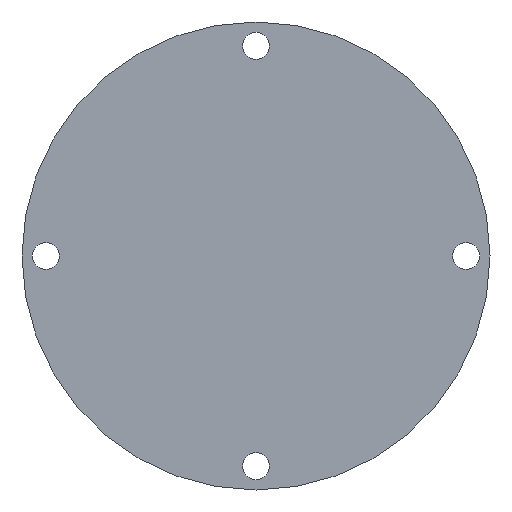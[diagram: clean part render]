
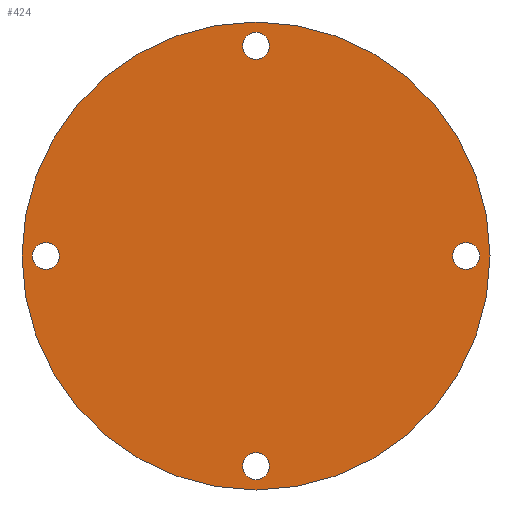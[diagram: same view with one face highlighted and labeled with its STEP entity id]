
A CAD part, front view. The second image highlights one B-rep face of the part: STEP entity #424.
In plain terms, the highlighted planar face has unit normal (0, -1, 0).
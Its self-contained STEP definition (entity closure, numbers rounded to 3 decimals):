
#2 = CARTESIAN_POINT ( 'NONE',  ( -40.4, 0., -2.591 ) ) ;
#7 = DIRECTION ( 'NONE',  ( 0., 1., 0. ) ) ;
#9 = DIRECTION ( 'NONE',  ( 0., 0., 1. ) ) ;
#24 = EDGE_CURVE ( 'NONE', #179, #41, #325, .T. ) ;
#31 = DIRECTION ( 'NONE',  ( 0., 1., 0. ) ) ;
#33 = AXIS2_PLACEMENT_3D ( 'NONE', #348, #7, #134 ) ;
#39 = DIRECTION ( 'NONE',  ( 0., 0., 1. ) ) ;
#41 = VERTEX_POINT ( 'NONE', #163 ) ;
#42 = DIRECTION ( 'NONE',  ( 0., 1., 0. ) ) ;
#52 = EDGE_CURVE ( 'NONE', #115, #168, #146, .T. ) ;
#57 = CIRCLE ( 'NONE', #169, 2.591 ) ;
#66 = DIRECTION ( 'NONE',  ( 0., 1., 0. ) ) ;
#67 = EDGE_CURVE ( 'NONE', #110, #410, #425, .T. ) ;
#72 = CARTESIAN_POINT ( 'NONE',  ( 0., 0., 0. ) ) ;
#73 = ORIENTED_EDGE ( 'NONE', *, *, #148, .T. ) ;
#78 = PLANE ( 'NONE',  #161 ) ;
#81 = CARTESIAN_POINT ( 'NONE',  ( 0., 0., 42.991 ) ) ;
#88 = CARTESIAN_POINT ( 'NONE',  ( 0., 0., 40.4 ) ) ;
#89 = VERTEX_POINT ( 'NONE', #131 ) ;
#103 = ORIENTED_EDGE ( 'NONE', *, *, #120, .F. ) ;
#107 = DIRECTION ( 'NONE',  ( 0., 1., 0. ) ) ;
#110 = VERTEX_POINT ( 'NONE', #234 ) ;
#115 = VERTEX_POINT ( 'NONE', #276 ) ;
#118 = AXIS2_PLACEMENT_3D ( 'NONE', #219, #262, #174 ) ;
#120 = EDGE_CURVE ( 'NONE', #41, #179, #400, .T. ) ;
#125 = VERTEX_POINT ( 'NONE', #2 ) ;
#126 = EDGE_LOOP ( 'NONE', ( #73, #383 ) ) ;
#131 = CARTESIAN_POINT ( 'NONE',  ( 40.4, 0., 2.591 ) ) ;
#134 = DIRECTION ( 'NONE',  ( 0., 0., 1. ) ) ;
#140 = CARTESIAN_POINT ( 'NONE',  ( 40.4, 0., -2.591 ) ) ;
#143 = AXIS2_PLACEMENT_3D ( 'NONE', #379, #279, #195 ) ;
#145 = CIRCLE ( 'NONE', #118, 2.591 ) ;
#146 = CIRCLE ( 'NONE', #189, 2.591 ) ;
#148 = EDGE_CURVE ( 'NONE', #419, #125, #308, .T. ) ;
#150 = EDGE_LOOP ( 'NONE', ( #365, #206 ) ) ;
#155 = CARTESIAN_POINT ( 'NONE',  ( 0., 0., -40.4 ) ) ;
#161 = AXIS2_PLACEMENT_3D ( 'NONE', #233, #42, #235 ) ;
#163 = CARTESIAN_POINT ( 'NONE',  ( 0., 0., 45. ) ) ;
#165 = DIRECTION ( 'NONE',  ( 0., 1., 0. ) ) ;
#166 = FACE_OUTER_BOUND ( 'NONE', #359, .T. ) ;
#168 = VERTEX_POINT ( 'NONE', #81 ) ;
#169 = AXIS2_PLACEMENT_3D ( 'NONE', #390, #107, #210 ) ;
#174 = DIRECTION ( 'NONE',  ( 0., 0., 1. ) ) ;
#179 = VERTEX_POINT ( 'NONE', #393 ) ;
#180 = EDGE_LOOP ( 'NONE', ( #260, #429 ) ) ;
#185 = DIRECTION ( 'NONE',  ( 0., 1., 0. ) ) ;
#189 = AXIS2_PLACEMENT_3D ( 'NONE', #413, #274, #341 ) ;
#194 = CARTESIAN_POINT ( 'NONE',  ( 0., 0., 0. ) ) ;
#195 = DIRECTION ( 'NONE',  ( 0., 0., 1. ) ) ;
#203 = EDGE_CURVE ( 'NONE', #168, #115, #360, .T. ) ;
#206 = ORIENTED_EDGE ( 'NONE', *, *, #355, .T. ) ;
#207 = DIRECTION ( 'NONE',  ( 0., 1., 0. ) ) ;
#210 = DIRECTION ( 'NONE',  ( 0., 0., 1. ) ) ;
#214 = AXIS2_PLACEMENT_3D ( 'NONE', #155, #66, #39 ) ;
#215 = CIRCLE ( 'NONE', #33, 2.591 ) ;
#219 = CARTESIAN_POINT ( 'NONE',  ( 40.4, 0., 0. ) ) ;
#221 = ORIENTED_EDGE ( 'NONE', *, *, #305, .T. ) ;
#233 = CARTESIAN_POINT ( 'NONE',  ( 0., 0., 0. ) ) ;
#234 = CARTESIAN_POINT ( 'NONE',  ( 0., 0., -37.809 ) ) ;
#235 = DIRECTION ( 'NONE',  ( 0., 0., 1. ) ) ;
#240 = CARTESIAN_POINT ( 'NONE',  ( -40.4, 0., 2.591 ) ) ;
#241 = EDGE_LOOP ( 'NONE', ( #221, #275 ) ) ;
#245 = VERTEX_POINT ( 'NONE', #140 ) ;
#249 = DIRECTION ( 'NONE',  ( 0., 0., 1. ) ) ;
#260 = ORIENTED_EDGE ( 'NONE', *, *, #203, .T. ) ;
#262 = DIRECTION ( 'NONE',  ( 0., 1., 0. ) ) ;
#268 = AXIS2_PLACEMENT_3D ( 'NONE', #72, #165, #315 ) ;
#269 = ORIENTED_EDGE ( 'NONE', *, *, #24, .F. ) ;
#274 = DIRECTION ( 'NONE',  ( 0., 1., 0. ) ) ;
#275 = ORIENTED_EDGE ( 'NONE', *, *, #407, .T. ) ;
#276 = CARTESIAN_POINT ( 'NONE',  ( 0., 0., 37.809 ) ) ;
#279 = DIRECTION ( 'NONE',  ( 0., 1., 0. ) ) ;
#287 = CARTESIAN_POINT ( 'NONE',  ( 0., 0., -40.4 ) ) ;
#305 = EDGE_CURVE ( 'NONE', #89, #245, #215, .T. ) ;
#308 = CIRCLE ( 'NONE', #143, 2.591 ) ;
#315 = DIRECTION ( 'NONE',  ( 0., 0., 1. ) ) ;
#316 = AXIS2_PLACEMENT_3D ( 'NONE', #194, #31, #9 ) ;
#325 = CIRCLE ( 'NONE', #316, 45. ) ;
#331 = CIRCLE ( 'NONE', #431, 2.591 ) ;
#341 = DIRECTION ( 'NONE',  ( 0., 0., 1. ) ) ;
#348 = CARTESIAN_POINT ( 'NONE',  ( 40.4, 0., 0. ) ) ;
#349 = AXIS2_PLACEMENT_3D ( 'NONE', #88, #185, #433 ) ;
#352 = EDGE_CURVE ( 'NONE', #125, #419, #57, .T. ) ;
#355 = EDGE_CURVE ( 'NONE', #410, #110, #331, .T. ) ;
#359 = EDGE_LOOP ( 'NONE', ( #269, #103 ) ) ;
#360 = CIRCLE ( 'NONE', #349, 2.591 ) ;
#362 = FACE_BOUND ( 'NONE', #241, .T. ) ;
#365 = ORIENTED_EDGE ( 'NONE', *, *, #67, .T. ) ;
#379 = CARTESIAN_POINT ( 'NONE',  ( -40.4, 0., 0. ) ) ;
#383 = ORIENTED_EDGE ( 'NONE', *, *, #352, .T. ) ;
#384 = CARTESIAN_POINT ( 'NONE',  ( 0., 0., -42.991 ) ) ;
#390 = CARTESIAN_POINT ( 'NONE',  ( -40.4, 0., 0. ) ) ;
#393 = CARTESIAN_POINT ( 'NONE',  ( 0., 0., -45. ) ) ;
#400 = CIRCLE ( 'NONE', #268, 45. ) ;
#407 = EDGE_CURVE ( 'NONE', #245, #89, #145, .T. ) ;
#410 = VERTEX_POINT ( 'NONE', #384 ) ;
#411 = FACE_BOUND ( 'NONE', #180, .T. ) ;
#413 = CARTESIAN_POINT ( 'NONE',  ( 0., 0., 40.4 ) ) ;
#419 = VERTEX_POINT ( 'NONE', #240 ) ;
#421 = FACE_BOUND ( 'NONE', #150, .T. ) ;
#424 = ADVANCED_FACE ( 'NONE', ( #421, #436, #411, #362, #166 ), #78, .F. ) ;
#425 = CIRCLE ( 'NONE', #214, 2.591 ) ;
#429 = ORIENTED_EDGE ( 'NONE', *, *, #52, .T. ) ;
#431 = AXIS2_PLACEMENT_3D ( 'NONE', #287, #207, #249 ) ;
#433 = DIRECTION ( 'NONE',  ( 0., 0., 1. ) ) ;
#436 = FACE_BOUND ( 'NONE', #126, .T. ) ;
